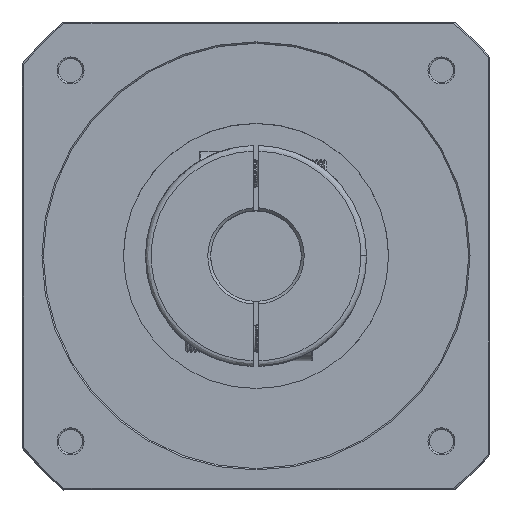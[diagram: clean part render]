
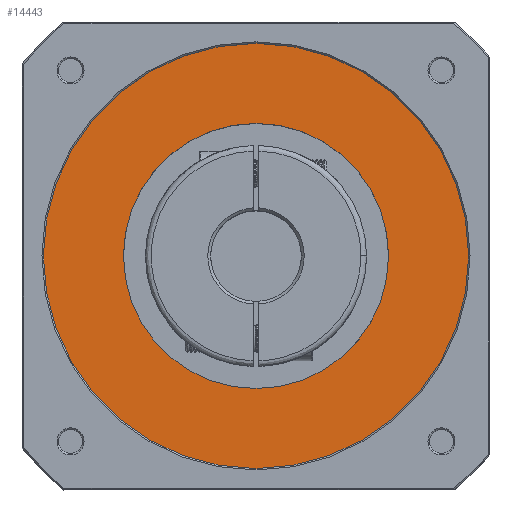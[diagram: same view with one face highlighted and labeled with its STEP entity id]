
A CAD part, top view. The second image highlights one B-rep face of the part: STEP entity #14443.
In plain terms, the highlighted planar face has unit normal (0, 0, -1).
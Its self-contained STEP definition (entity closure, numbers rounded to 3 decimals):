
#4701 = FACE_BOUND ( 'NONE', #59596, .T. ) ;
#4947 = DIRECTION ( 'NONE',  ( -1., 0., 0. ) ) ;
#7988 = DIRECTION ( 'NONE',  ( 0., 0., -1. ) ) ;
#8527 = VERTEX_POINT ( 'NONE', #100439 ) ;
#9490 = AXIS2_PLACEMENT_3D ( 'NONE', #101543, #53246, #4947 ) ;
#9495 = DIRECTION ( 'NONE',  ( 0., 0., 1. ) ) ;
#10388 = VERTEX_POINT ( 'NONE', #19461 ) ;
#14443 = ADVANCED_FACE ( 'NONE', ( #4701, #93106 ), #58535, .F. ) ;
#14600 = EDGE_LOOP ( 'NONE', ( #31993, #72129 ) ) ;
#18716 = DIRECTION ( 'NONE',  ( 0., 0., -1. ) ) ;
#19461 = CARTESIAN_POINT ( 'NONE',  ( 46.75, 0., 285.5 ) ) ;
#31993 = ORIENTED_EDGE ( 'NONE', *, *, #76551, .T. ) ;
#33991 = EDGE_CURVE ( 'NONE', #10388, #72532, #59980, .T. ) ;
#35047 = AXIS2_PLACEMENT_3D ( 'NONE', #66969, #18716, #75153 ) ;
#38621 = AXIS2_PLACEMENT_3D ( 'NONE', #90999, #42647, #99073 ) ;
#42647 = DIRECTION ( 'NONE',  ( 0., 0., 1. ) ) ;
#43460 = AXIS2_PLACEMENT_3D ( 'NONE', #57816, #9495, #65906 ) ;
#53246 = DIRECTION ( 'NONE',  ( 0., 0., 1. ) ) ;
#56311 = CARTESIAN_POINT ( 'NONE',  ( 0., 0., 285.5 ) ) ;
#57816 = CARTESIAN_POINT ( 'NONE',  ( 0., 0., 285.5 ) ) ;
#58535 = PLANE ( 'NONE',  #38621 ) ;
#58825 = CARTESIAN_POINT ( 'NONE',  ( 75., 0., 285.5 ) ) ;
#58927 = EDGE_CURVE ( 'NONE', #8527, #89951, #79296, .T. ) ;
#59596 = EDGE_LOOP ( 'NONE', ( #88778, #87050 ) ) ;
#59980 = CIRCLE ( 'NONE', #43460, 46.75 ) ;
#64410 = DIRECTION ( 'NONE',  ( 1., 0., 0. ) ) ;
#65906 = DIRECTION ( 'NONE',  ( -1., 0., 0. ) ) ;
#66969 = CARTESIAN_POINT ( 'NONE',  ( 0., 0., 285.5 ) ) ;
#68955 = CARTESIAN_POINT ( 'NONE',  ( -46.75, 0., 285.5 ) ) ;
#72129 = ORIENTED_EDGE ( 'NONE', *, *, #58927, .T. ) ;
#72532 = VERTEX_POINT ( 'NONE', #68955 ) ;
#74700 = AXIS2_PLACEMENT_3D ( 'NONE', #56311, #7988, #64410 ) ;
#75153 = DIRECTION ( 'NONE',  ( 1., 0., 0. ) ) ;
#76551 = EDGE_CURVE ( 'NONE', #89951, #8527, #103313, .T. ) ;
#78530 = CIRCLE ( 'NONE', #9490, 46.75 ) ;
#79296 = CIRCLE ( 'NONE', #35047, 75. ) ;
#81562 = EDGE_CURVE ( 'NONE', #72532, #10388, #78530, .T. ) ;
#87050 = ORIENTED_EDGE ( 'NONE', *, *, #33991, .T. ) ;
#88778 = ORIENTED_EDGE ( 'NONE', *, *, #81562, .T. ) ;
#89951 = VERTEX_POINT ( 'NONE', #58825 ) ;
#90999 = CARTESIAN_POINT ( 'NONE',  ( -75.9, -75.9, 285.5 ) ) ;
#93106 = FACE_OUTER_BOUND ( 'NONE', #14600, .T. ) ;
#99073 = DIRECTION ( 'NONE',  ( 1., 0., 0. ) ) ;
#100439 = CARTESIAN_POINT ( 'NONE',  ( -75., 0., 285.5 ) ) ;
#101543 = CARTESIAN_POINT ( 'NONE',  ( 0., 0., 285.5 ) ) ;
#103313 = CIRCLE ( 'NONE', #74700, 75. ) ;
